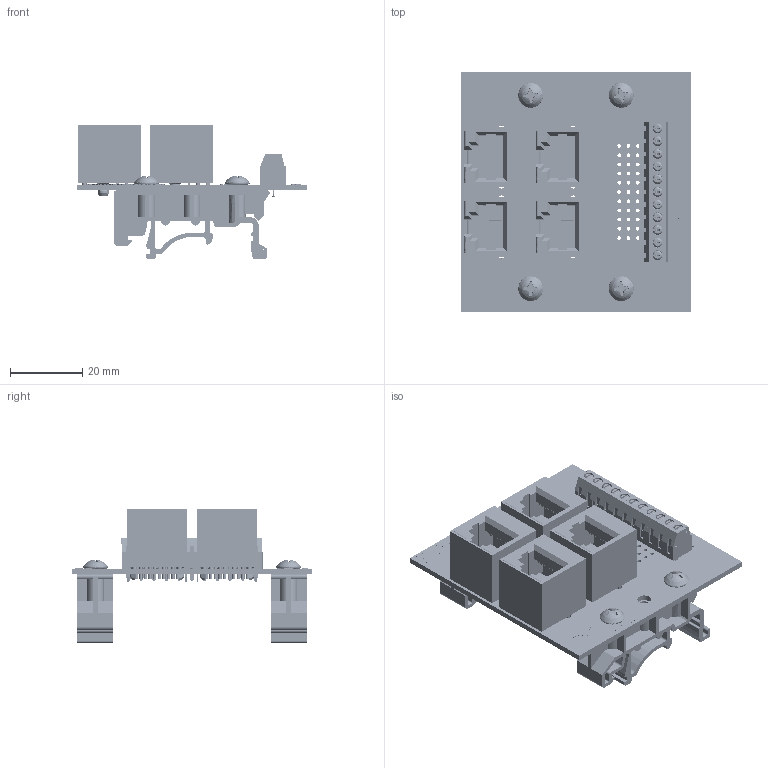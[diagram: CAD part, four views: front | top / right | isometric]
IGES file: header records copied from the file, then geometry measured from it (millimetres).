
Start section: SolidWorks IGES file using analytic representation for surfaces
Global section: file name: C:\Users\Jonny\Documents\Winford Engineering Jobs\BRK10P10CSJ4B\brk10p10csj4b-s-din_rev_a.igs; native system: SolidWorks 2017; preprocessor: SolidWorks 2017; author: Jonny; date: 180127.224445; units: inch
Bounding box: 63.59 x 66.14 x 37.03 mm (x, y, z)
Surface area: 34639.9 mm2 (no closed solid volume)
Topology: 0 solids, 0 shells, 6448 faces, 46127 edges, 46111 vertices
Faces by surface type: bspline 5125, revolution 1323
